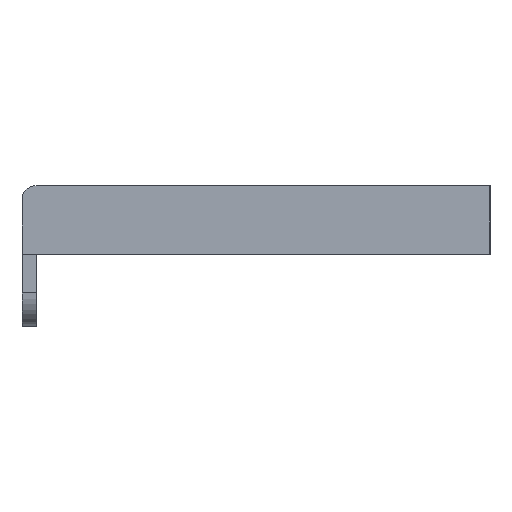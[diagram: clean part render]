
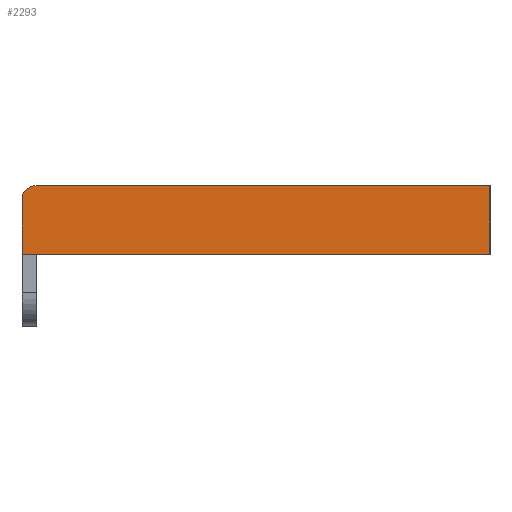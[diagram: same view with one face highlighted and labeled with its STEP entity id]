
A CAD part, left-side view. The second image highlights one B-rep face of the part: STEP entity #2293.
In plain terms, the highlighted planar face has unit normal (-1, 0, 0) as drawn and (0, -1, 0) by its records, which use the part's own axes.
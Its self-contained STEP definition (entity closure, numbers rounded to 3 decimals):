
#456 = DIRECTION ( 'NONE',  ( -1., 0., 0. ) ) ;
#1057 = EDGE_CURVE ( 'NONE', #13899, #15211, #4296, .T. ) ;
#1373 = VECTOR ( 'NONE', #3552, 1000. ) ;
#1924 = FACE_OUTER_BOUND ( 'NONE', #9944, .T. ) ;
#2293 = ADVANCED_FACE ( 'NONE', ( #1924 ), #3177, .T. ) ;
#2552 = LINE ( 'NONE', #11942, #10979 ) ;
#3177 = PLANE ( 'NONE',  #12277 ) ;
#3384 = CARTESIAN_POINT ( 'NONE',  ( -11.2, 105., -131. ) ) ;
#3552 = DIRECTION ( 'NONE',  ( -1., 0., 0. ) ) ;
#4065 = CARTESIAN_POINT ( 'NONE',  ( 8.328, 105., -135. ) ) ;
#4144 = VECTOR ( 'NONE', #4579, 1000. ) ;
#4296 = LINE ( 'NONE', #4065, #6499 ) ;
#4333 = CARTESIAN_POINT ( 'NONE',  ( -7.2, 105., -131. ) ) ;
#4579 = DIRECTION ( 'NONE',  ( 0., 0., 1. ) ) ;
#4732 = CARTESIAN_POINT ( 'NONE',  ( -11.2, 105., -2. ) ) ;
#4734 = CARTESIAN_POINT ( 'NONE',  ( 8.328, 105., -2. ) ) ;
#4985 = DIRECTION ( 'NONE',  ( 0., 0., -1. ) ) ;
#5316 = CARTESIAN_POINT ( 'NONE',  ( -11.2, 105., -135. ) ) ;
#5333 = VERTEX_POINT ( 'NONE', #8676 ) ;
#5968 = ORIENTED_EDGE ( 'NONE', *, *, #8792, .F. ) ;
#6382 = DIRECTION ( 'NONE',  ( -1., 0., 0. ) ) ;
#6499 = VECTOR ( 'NONE', #456, 1000. ) ;
#6869 = ORIENTED_EDGE ( 'NONE', *, *, #11962, .T. ) ;
#7709 = CIRCLE ( 'NONE', #14471, 4. ) ;
#8676 = CARTESIAN_POINT ( 'NONE',  ( 8.328, 105., -2. ) ) ;
#8792 = EDGE_CURVE ( 'NONE', #9051, #9484, #11624, .T. ) ;
#9051 = VERTEX_POINT ( 'NONE', #3384 ) ;
#9484 = VERTEX_POINT ( 'NONE', #4732 ) ;
#9754 = ORIENTED_EDGE ( 'NONE', *, *, #9786, .T. ) ;
#9786 = EDGE_CURVE ( 'NONE', #9051, #15211, #7709, .T. ) ;
#9944 = EDGE_LOOP ( 'NONE', ( #6869, #5968, #9754, #13568, #12958 ) ) ;
#10074 = DIRECTION ( 'NONE',  ( 0., 0., -1. ) ) ;
#10950 = EDGE_CURVE ( 'NONE', #5333, #13899, #2552, .T. ) ;
#10979 = VECTOR ( 'NONE', #4985, 1000. ) ;
#11445 = CARTESIAN_POINT ( 'NONE',  ( 8.328, 105., -135. ) ) ;
#11624 = LINE ( 'NONE', #14057, #4144 ) ;
#11942 = CARTESIAN_POINT ( 'NONE',  ( 8.328, 105., -2. ) ) ;
#11962 = EDGE_CURVE ( 'NONE', #5333, #9484, #15465, .T. ) ;
#12277 = AXIS2_PLACEMENT_3D ( 'NONE', #5316, #15100, #10074 ) ;
#12958 = ORIENTED_EDGE ( 'NONE', *, *, #10950, .F. ) ;
#13568 = ORIENTED_EDGE ( 'NONE', *, *, #1057, .F. ) ;
#13887 = DIRECTION ( 'NONE',  ( 0., -1., 0. ) ) ;
#13899 = VERTEX_POINT ( 'NONE', #11445 ) ;
#14057 = CARTESIAN_POINT ( 'NONE',  ( -11.2, 105., -131. ) ) ;
#14471 = AXIS2_PLACEMENT_3D ( 'NONE', #4333, #13887, #6382 ) ;
#14544 = CARTESIAN_POINT ( 'NONE',  ( -7.2, 105., -135. ) ) ;
#15100 = DIRECTION ( 'NONE',  ( 0., -1., 0. ) ) ;
#15211 = VERTEX_POINT ( 'NONE', #14544 ) ;
#15465 = LINE ( 'NONE', #4734, #1373 ) ;
